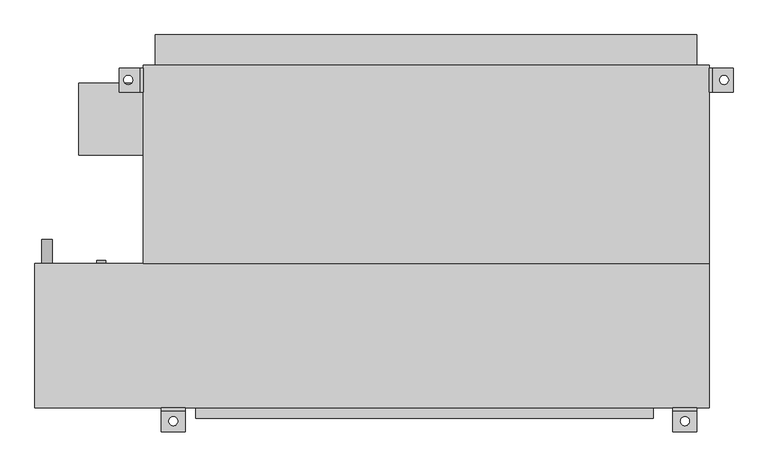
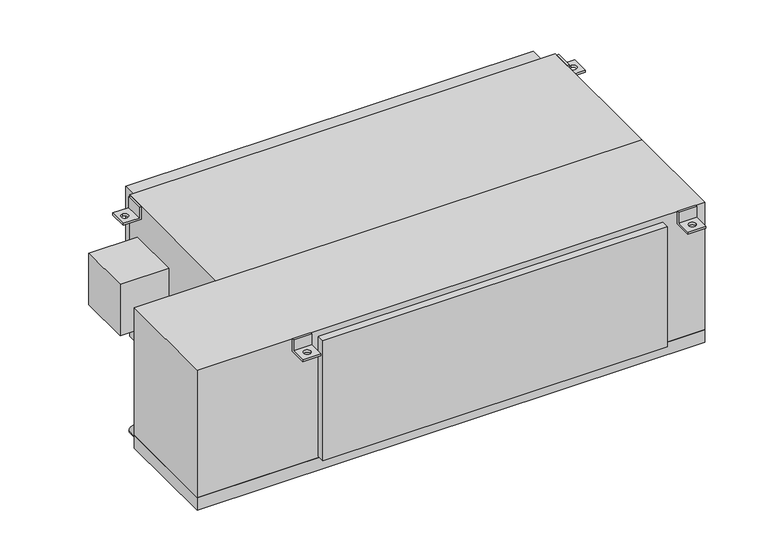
"""IFC4 building model written with IfcOpenShell, lengths in millimetres: proxy geometry, Concealed_High_Capacity_Horizontal_Fan_Coil_Unit_With_Plenum_-_42DCA_-_CARRIER_-_2-Pipe_Cool-EHeat_ValveEnclosure_LH_2022 : Size 16 - 277v/60Hz/1Ph - 6 Row 12.0kW."""

from ifc_helpers import new_model, si_unit, point, frame, frame_2d, origin, place, context, project, spatial, polyline, circle_curve, trimmed, segment, composite_curve, outline, extrude, source, transform, mapped, element, save
from ifc_brep_helpers import plane_surface, revolved_surface, advanced_brep


def mechanical_equipment_52020410(model_context):
    return source(origin(), model_context, "Body", "SolidModel", [
        advanced_brep(
        [(723.9, -390.525, 0.0), (723.9, -396.875, 0.0), (723.9, -396.875, -31.75), (723.9, -441.325, -31.75), (723.9, -441.325, -38.1), (723.9, -390.525, -38.1), (673.1, -390.525, 0.0), (673.1, -390.525, -38.1), (673.1, -441.325, -38.1), (673.1, -441.325, -31.75), (673.1, -396.875, -31.75), (673.1, -396.875, 0.0), (688.975, -419.1, -31.75), (708.025, -419.1, -31.75), (708.025, -419.1, -38.1), (688.975, -419.1, -38.1)],
        [
            (0, 1),
            (1, 2),
            (2, 3),
            (3, 4),
            (4, 5),
            (5, 0),
            (6, 7),
            (7, 8),
            (8, 9),
            (9, 10),
            (10, 11),
            (11, 6),
            (0, 6),
            (11, 1),
            (10, 2),
            (9, 3),
            (12, 13, circle_curve(frame((698.5, -419.1, -31.75), z_axis=(0.0, 0.0, -1.0), x_axis=(1.0, 0.0, 0.0)), 9.525)),
            (13, 12, circle_curve(frame((698.5, -419.1, -31.75), z_axis=(0.0, 0.0, -1.0), x_axis=(1.0, 0.0, 0.0)), 9.525)),
            (8, 4),
            (7, 5),
            (14, 15, circle_curve(frame((698.5, -419.1, -38.1), z_axis=(0.0, 0.0, 1.0), x_axis=(1.0, 0.0, 0.0)), 9.525)),
            (15, 14, circle_curve(frame((698.5, -419.1, -38.1), z_axis=(0.0, 0.0, 1.0), x_axis=(1.0, 0.0, 0.0)), 9.525)),
            (12, 15),
            (14, 13),
        ],
        [
            plane_surface(frame((723.9, -396.875, 0.0), z_axis=(1.0, 0.0, 0.0), x_axis=(0.0, -1.0, 0.0))),
            plane_surface(frame((673.1, -396.875, 0.0), z_axis=(-1.0, 0.0, 0.0), x_axis=(0.0, 1.0, 0.0))),
            plane_surface(frame((723.9, -390.525, 0.0), z_axis=(0.0, 0.0, 1.0), x_axis=(-1.0, 0.0, 0.0))),
            plane_surface(frame((723.9, -396.875, 0.0), z_axis=(0.0, -1.0, 0.0), x_axis=(-1.0, 0.0, 0.0))),
            plane_surface(frame((723.9, -396.875, -31.75), z_axis=(0.0, 0.0, 1.0), x_axis=(-1.0, 0.0, 0.0))),
            plane_surface(frame((723.9, -441.325, -31.75), z_axis=(0.0, -1.0, 0.0), x_axis=(-1.0, 0.0, 0.0))),
            plane_surface(frame((723.9, -441.325, -38.1), z_axis=(0.0, 0.0, -1.0), x_axis=(-1.0, 0.0, 0.0))),
            plane_surface(frame((723.9, -390.525, -38.1), z_axis=(0.0, 1.0, 0.0), x_axis=(-1.0, 0.0, 0.0))),
            revolved_surface(polyline([(708.025, -419.1, -38.1), (708.025, -419.1, -31.75)]), (698.5, -419.1, -31.75), (0.0, 0.0, -1.0)),
        ],
        [
            (0, [[1, 2, 3, 4, 5, 6]]),
            (1, [[7, 8, 9, 10, 11, 12]]),
            (2, [[-1, 13, -12, 14]]),
            (3, [[-2, -14, -11, 15]]),
            (4, [[-3, -15, -10, 16], [17, 18]]),
            (5, [[-4, -16, -9, 19]]),
            (6, [[-5, -19, -8, 20], [21, 22]]),
            (7, [[-6, -20, -7, -13]]),
            (8, [[23, -21, 24, -17]]),
            (8, [[-23, -18, -24, -22]]),
        ],
    ),
        advanced_brep(
        [(-355.6, -390.525, -38.1), (-355.6, -390.525, 0.0), (-355.6, -396.875, 0.0), (-355.6, -396.875, -31.75), (-355.6, -441.325, -31.75), (-355.6, -441.325, -38.1), (-406.4, -390.525, -38.1), (-406.4, -441.325, -38.1), (-406.4, -441.325, -31.75), (-406.4, -396.875, -31.75), (-406.4, -396.875, 0.0), (-406.4, -390.525, 0.0), (-390.525, -419.1, -31.75), (-371.475, -419.1, -31.75), (-371.475, -419.1, -38.1), (-390.525, -419.1, -38.1)],
        [
            (0, 1),
            (1, 2),
            (2, 3),
            (3, 4),
            (4, 5),
            (5, 0),
            (6, 7),
            (7, 8),
            (8, 9),
            (9, 10),
            (10, 11),
            (11, 6),
            (0, 6),
            (11, 1),
            (10, 2),
            (9, 3),
            (8, 4),
            (12, 13, circle_curve(frame((-381.0, -419.1, -31.75), z_axis=(0.0, 0.0, -1.0), x_axis=(1.0, 0.0, 0.0)), 9.525)),
            (13, 12, circle_curve(frame((-381.0, -419.1, -31.75), z_axis=(0.0, 0.0, -1.0), x_axis=(1.0, 0.0, 0.0)), 9.525)),
            (7, 5),
            (14, 15, circle_curve(frame((-381.0, -419.1, -38.1), z_axis=(0.0, 0.0, 1.0), x_axis=(1.0, 0.0, 0.0)), 9.525)),
            (15, 14, circle_curve(frame((-381.0, -419.1, -38.1), z_axis=(0.0, 0.0, 1.0), x_axis=(1.0, 0.0, 0.0)), 9.525)),
            (12, 15),
            (14, 13),
        ],
        [
            plane_surface(frame((-355.6, -390.525, -38.1), z_axis=(1.0, 0.0, 0.0), x_axis=(0.0, 0.0, 1.0))),
            plane_surface(frame((-406.4, -390.525, -38.1), z_axis=(-1.0, 0.0, 0.0), x_axis=(0.0, 0.0, -1.0))),
            plane_surface(frame((-355.6, -390.525, -38.1), z_axis=(0.0, 1.0, 0.0), x_axis=(-1.0, 0.0, 0.0))),
            plane_surface(frame((-355.6, -390.525, 0.0), z_axis=(0.0, 0.0, 1.0), x_axis=(-1.0, 0.0, 0.0))),
            plane_surface(frame((-355.6, -396.875, 0.0), z_axis=(0.0, -1.0, 0.0), x_axis=(-1.0, 0.0, 0.0))),
            plane_surface(frame((-355.6, -396.875, -31.75), z_axis=(0.0, 0.0, 1.0), x_axis=(-1.0, 0.0, 0.0))),
            plane_surface(frame((-355.6, -441.325, -31.75), z_axis=(0.0, -1.0, 0.0), x_axis=(-1.0, 0.0, 0.0))),
            plane_surface(frame((-355.6, -441.325, -38.1), z_axis=(0.0, 0.0, -1.0), x_axis=(-1.0, 0.0, 0.0))),
            revolved_surface(polyline([(-371.475, -419.1, -38.1), (-371.475, -419.1, -31.75)]), (-381.0, -419.1, -31.75), (0.0, 0.0, -1.0)),
        ],
        [
            (0, [[1, 2, 3, 4, 5, 6]]),
            (1, [[7, 8, 9, 10, 11, 12]]),
            (2, [[-1, 13, -12, 14]]),
            (3, [[-2, -14, -11, 15]]),
            (4, [[-3, -15, -10, 16]]),
            (5, [[-4, -16, -9, 17], [18, 19]]),
            (6, [[-5, -17, -8, 20]]),
            (7, [[-6, -20, -7, -13], [21, 22]]),
            (8, [[23, -21, 24, -18]]),
            (8, [[-23, -19, -24, -22]]),
        ],
    ),
        extrude(outline(composite_curve([segment(trimmed(circle_curve(frame_2d((-400.05, -647.7)), 11.1125), [point((-400.05, -658.8125))], [point((-400.05, -636.5875))], False, "CARTESIAN"), True, "CONTINUOUS"), segment(trimmed(circle_curve(frame_2d((-400.05, -647.7)), 11.1125), [point((-400.05, -636.5875))], [point((-400.05, -658.8125))], False, "CARTESIAN"), True, "CONTINUOUS")], self_intersect=False)), frame((0.0, -85.725, 0.0), z_axis=(0.0, 1.0, 0.0), x_axis=(0.0, 0.0, 1.0)), (0.0, 0.0, 1.0), 50.8),
        extrude(outline(composite_curve([segment(trimmed(circle_curve(frame_2d((-44.45, -533.4)), 9.525), [point((-44.45, -542.925))], [point((-44.45, -523.875))], False, "CARTESIAN"), True, "CONTINUOUS"), segment(trimmed(circle_curve(frame_2d((-44.45, -533.4)), 9.525), [point((-44.45, -523.875))], [point((-44.45, -542.925))], False, "CARTESIAN"), True, "CONTINUOUS")], self_intersect=False)), frame((0.0, -85.725, 0.0), z_axis=(0.0, 1.0, 0.0), x_axis=(0.0, 0.0, 1.0)), (0.0, 0.0, 1.0), 6.35),
        extrude(outline(composite_curve([segment(trimmed(circle_curve(frame_2d((-276.225, -533.4)), 9.525), [point((-276.225, -542.925))], [point((-276.225, -523.875))], False, "CARTESIAN"), True, "CONTINUOUS"), segment(trimmed(circle_curve(frame_2d((-276.225, -533.4)), 9.525), [point((-276.225, -523.875))], [point((-276.225, -542.925))], False, "CARTESIAN"), True, "CONTINUOUS")], self_intersect=False)), frame((0.0, -85.725, 0.0), z_axis=(0.0, 1.0, 0.0), x_axis=(0.0, 0.0, 1.0)), (0.0, 0.0, 1.0), 6.35),
        advanced_brep(
        [(-444.5, 327.025, -38.1), (-495.3, 327.025, -38.1), (-495.3, 327.025, -31.75), (-450.85, 327.025, -31.75), (-450.85, 327.025, 0.0), (-444.5, 327.025, 0.0), (-444.5, 276.225, -38.1), (-444.5, 276.225, 0.0), (-450.85, 276.225, 0.0), (-450.85, 276.225, -31.75), (-495.3, 276.225, -31.75), (-495.3, 276.225, -38.1), (-476.25, 292.1, -38.1), (-476.25, 311.15, -38.1), (-476.25, 311.15, -31.75), (-476.25, 292.1, -31.75)],
        [
            (0, 1),
            (1, 2),
            (2, 3),
            (3, 4),
            (4, 5),
            (5, 0),
            (6, 7),
            (7, 8),
            (8, 9),
            (9, 10),
            (10, 11),
            (11, 6),
            (0, 6),
            (11, 1),
            (12, 13, circle_curve(frame((-476.25, 301.625, -38.1), z_axis=(0.0, 0.0, 1.0), x_axis=(0.0, -1.0, 0.0)), 9.525)),
            (13, 12, circle_curve(frame((-476.25, 301.625, -38.1), z_axis=(0.0, 0.0, 1.0), x_axis=(0.0, -1.0, 0.0)), 9.525)),
            (10, 2),
            (9, 3),
            (14, 15, circle_curve(frame((-476.25, 301.625, -31.75), z_axis=(0.0, 0.0, -1.0), x_axis=(0.0, -1.0, 0.0)), 9.525)),
            (15, 14, circle_curve(frame((-476.25, 301.625, -31.75), z_axis=(0.0, 0.0, -1.0), x_axis=(0.0, -1.0, 0.0)), 9.525)),
            (8, 4),
            (7, 5),
            (14, 13),
            (12, 15),
        ],
        [
            plane_surface(frame((-444.5, 327.025, -38.1), z_axis=(0.0, 1.0, 0.0), x_axis=(-1.0, 0.0, 0.0))),
            plane_surface(frame((-444.5, 276.225, -38.1), z_axis=(0.0, -1.0, 0.0), x_axis=(1.0, 0.0, 0.0))),
            plane_surface(frame((-444.5, 327.025, -38.1), z_axis=(0.0, 0.0, -1.0), x_axis=(0.0, -1.0, 0.0))),
            plane_surface(frame((-495.3, 327.025, -38.1), z_axis=(-1.0, 0.0, 0.0), x_axis=(0.0, -1.0, 0.0))),
            plane_surface(frame((-495.3, 327.025, -31.75), z_axis=(0.0, 0.0, 1.0), x_axis=(0.0, -1.0, 0.0))),
            plane_surface(frame((-450.85, 327.025, -31.75), z_axis=(-1.0, 0.0, 0.0), x_axis=(0.0, -1.0, 0.0))),
            plane_surface(frame((-450.85, 327.025, 0.0), z_axis=(0.0, 0.0, 1.0), x_axis=(0.0, -1.0, 0.0))),
            plane_surface(frame((-444.5, 327.025, 0.0), z_axis=(1.0, 0.0, 0.0), x_axis=(0.0, -1.0, 0.0))),
            revolved_surface(polyline([(-476.25, 292.1, -38.1), (-476.25, 292.1, -31.75)]), (-476.25, 301.625, -31.75), (0.0, 0.0, -1.0)),
        ],
        [
            (0, [[1, 2, 3, 4, 5, 6]]),
            (1, [[7, 8, 9, 10, 11, 12]]),
            (2, [[-1, 13, -12, 14], [15, 16]]),
            (3, [[-2, -14, -11, 17]]),
            (4, [[-3, -17, -10, 18], [19, 20]]),
            (5, [[-4, -18, -9, 21]]),
            (6, [[-5, -21, -8, 22]]),
            (7, [[-6, -22, -7, -13]]),
            (8, [[23, -15, 24, -19]]),
            (8, [[-23, -20, -24, -16]]),
        ],
    ),
        advanced_brep(
        [(749.3, 327.025, -38.1), (749.3, 327.025, 0.0), (755.65, 327.025, 0.0), (755.65, 327.025, -31.75), (800.1, 327.025, -31.75), (800.1, 327.025, -38.1), (749.3, 276.225, -38.1), (800.1, 276.225, -38.1), (800.1, 276.225, -31.75), (755.65, 276.225, -31.75), (755.65, 276.225, 0.0), (749.3, 276.225, 0.0), (781.05, 311.15, -31.75), (781.05, 292.1, -31.75), (781.05, 292.1, -38.1), (781.05, 311.15, -38.1)],
        [
            (0, 1),
            (1, 2),
            (2, 3),
            (3, 4),
            (4, 5),
            (5, 0),
            (6, 7),
            (7, 8),
            (8, 9),
            (9, 10),
            (10, 11),
            (11, 6),
            (0, 6),
            (11, 1),
            (10, 2),
            (9, 3),
            (8, 4),
            (12, 13, circle_curve(frame((781.05, 301.625, -31.75), z_axis=(0.0, 0.0, -1.0), x_axis=(0.0, -1.0, 0.0)), 9.525)),
            (13, 12, circle_curve(frame((781.05, 301.625, -31.75), z_axis=(0.0, 0.0, -1.0), x_axis=(0.0, -1.0, 0.0)), 9.525)),
            (7, 5),
            (14, 15, circle_curve(frame((781.05, 301.625, -38.1), z_axis=(0.0, 0.0, 1.0), x_axis=(0.0, -1.0, 0.0)), 9.525)),
            (15, 14, circle_curve(frame((781.05, 301.625, -38.1), z_axis=(0.0, 0.0, 1.0), x_axis=(0.0, -1.0, 0.0)), 9.525)),
            (12, 15),
            (14, 13),
        ],
        [
            plane_surface(frame((-444.5, 327.025, -38.1), z_axis=(0.0, 1.0, 0.0), x_axis=(-1.0, 0.0, 0.0))),
            plane_surface(frame((-444.5, 276.225, -38.1), z_axis=(0.0, -1.0, 0.0), x_axis=(1.0, 0.0, 0.0))),
            plane_surface(frame((749.3, 327.025, -38.1), z_axis=(-1.0, 0.0, 0.0), x_axis=(0.0, -1.0, 0.0))),
            plane_surface(frame((749.3, 327.025, 0.0), z_axis=(0.0, 0.0, 1.0), x_axis=(0.0, -1.0, 0.0))),
            plane_surface(frame((755.65, 327.025, 0.0), z_axis=(1.0, 0.0, 0.0), x_axis=(0.0, -1.0, 0.0))),
            plane_surface(frame((755.65, 327.025, -31.75), z_axis=(0.0, 0.0, 1.0), x_axis=(0.0, -1.0, 0.0))),
            plane_surface(frame((800.1, 327.025, -31.75), z_axis=(1.0, 0.0, 0.0), x_axis=(0.0, -1.0, 0.0))),
            plane_surface(frame((800.1, 327.025, -38.1), z_axis=(0.0, 0.0, -1.0), x_axis=(0.0, -1.0, 0.0))),
            revolved_surface(polyline([(781.05, 292.1, -38.1), (781.05, 292.1, -31.75)]), (781.05, 301.625, -31.75), (0.0, 0.0, -1.0)),
        ],
        [
            (0, [[1, 2, 3, 4, 5, 6]]),
            (1, [[7, 8, 9, 10, 11, 12]]),
            (2, [[-1, 13, -12, 14]]),
            (3, [[-2, -14, -11, 15]]),
            (4, [[-3, -15, -10, 16]]),
            (5, [[-4, -16, -9, 17], [18, 19]]),
            (6, [[-5, -17, -8, 20]]),
            (7, [[-6, -20, -7, -13], [21, 22]]),
            (8, [[23, -21, 24, -18]]),
            (8, [[-23, -19, -24, -22]]),
        ],
    ),
        extrude(outline(polyline([(-419.1, 396.875), (723.9, 396.875), (723.9, 333.375), (-419.1, 333.375), (-419.1, 396.875)])), frame((0.0, 0.0, -377.825), z_axis=(0.0, 0.0, 1.0), x_axis=(1.0, 0.0, 0.0)), (0.0, 0.0, 1.0), 355.6),
        extrude(outline(polyline([(-581.025, 142.875), (-581.025, 295.275), (-444.5, 295.275), (-444.5, 142.875), (-581.025, 142.875)])), frame((0.0, 0.0, -254.0), z_axis=(0.0, 0.0, 1.0), x_axis=(1.0, 0.0, 0.0)), (0.0, 0.0, 1.0), 152.4),
        extrude(outline(polyline([(631.825, -412.75), (-333.375, -412.75), (-333.375, -390.525), (631.825, -390.525), (631.825, -412.75)])), frame((0.0, 0.0, -374.65), z_axis=(0.0, 0.0, 1.0), x_axis=(1.0, 0.0, 0.0)), (0.0, 0.0, 1.0), 355.6),
        extrude(outline(polyline([(749.3, -85.725), (-444.5, -85.725), (-444.5, 333.375), (749.3, 333.375), (749.3, -85.725)])), frame((0.0, 0.0, -419.1), z_axis=(0.0, 0.0, 1.0), x_axis=(1.0, 0.0, 0.0)), (0.0, 0.0, 1.0), 419.1),
        extrude(outline(polyline([(749.3, -85.725), (749.3, -390.525), (-673.1, -390.525), (-673.1, -85.725), (749.3, -85.725)])), frame((0.0, 0.0, -377.825), z_axis=(0.0, 0.0, 1.0), x_axis=(1.0, 0.0, 0.0)), (0.0, 0.0, 1.0), 377.825),
        extrude(outline(polyline([(749.3, -85.725), (749.3, -390.525), (-673.1, -390.525), (-673.1, -85.725), (749.3, -85.725)])), frame((0.0, 0.0, -415.925), z_axis=(0.0, 0.0, 1.0), x_axis=(1.0, 0.0, 0.0)), (0.0, 0.0, 1.0), 38.1),
    ])


if __name__ == "__main__":
    model = new_model("IFC4")
    model_context = context("Model", 3, world=origin())
    ifc_project = project(units=[si_unit("LENGTHUNIT", "METRE", prefix="MILLI")], contexts=[model_context])
    site = spatial("IfcSite", under=ifc_project)
    building = spatial("IfcBuilding", under=site)
    placement = place(None, origin())
    mechanical_equipment_shape = mechanical_equipment_52020410(model_context)
    element("IfcBuildingElementProxy", 1, Name="Concealed_High_Capacity_Horizontal_Fan_Coil_Unit_With_Plenum_-_42DCA_-_CARRIER_-_2-Pipe_Cool-EHeat_ValveEnclosure_LH_2022 : Size 16 - 277v/60Hz/1Ph - 6 Row 12.0kW", ObjectType="Concealed_High_Capacity_Horizontal_Fan_Coil_Unit_With_Plenum_-_42DCA_-_CARRIER_-_2-Pipe_Cool-EHeat_ValveEnclosure_LH_2022 : Size 16 - 277v/60Hz/1Ph - 6 Row 12.0kW", at=placement, inside=building, context=model_context, shape_type="MappedRepresentation", body=[
        mapped(mechanical_equipment_shape, transform((0.0, 0.0, 0.0), x_axis=(1.0, 0.0, 0.0), y_axis=(0.0, 1.0, 0.0), z_axis=(0.0, 0.0, 1.0))),
    ])
    save(model, "model.ifc")
